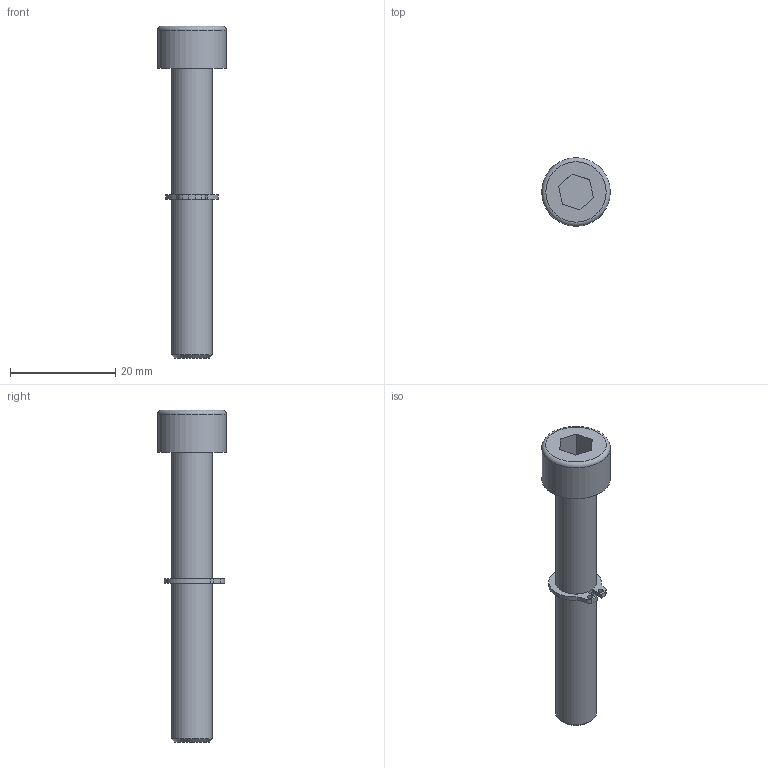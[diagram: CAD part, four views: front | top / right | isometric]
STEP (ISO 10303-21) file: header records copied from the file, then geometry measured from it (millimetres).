
FILE_DESCRIPTION(/* description */ (''),/* implementation_level */ '2;1');
FILE_NAME(/* name */ '034_vite_M8x55_seeger.stp',/* time_stamp */ '2020-01-08T13:55:19+01:00',/* author */ (''),/* organization */ (''),/* preprocessor_version */ 'ST-DEVELOPER v16.7',/* originating_system */ 'SIEMENS PLM Software NX 12.0',/* authorisation */ '');
FILE_SCHEMA (('AUTOMOTIVE_DESIGN { 1 0 10303 214 3 1 1 1 }'));
Length unit declared in the file: millimetre
Products named in the file (1): bez2C70411Cqcyo
Bounding box: 13 x 13 x 63 mm (x, y, z)
Volume: 3479.6 mm3; surface area: 2179.7 mm2
Topology: 2 solids, 2 shells, 34 faces, 76 edges, 50 vertices
Faces by surface type: plane 18, cylinder 14, torus 1, cone 1
Full cylindrical faces by diameter (mm): 1 x2, 7.36 x1, 7.76 x2, 13 x1
Entity records: 960 total; most frequent: DIRECTION 168, CARTESIAN_POINT 153, ORIENTED_EDGE 136, EDGE_CURVE 68, AXIS2_PLACEMENT_3D 65, EDGE_LOOP 50, VERTEX_POINT 50, LINE 38
